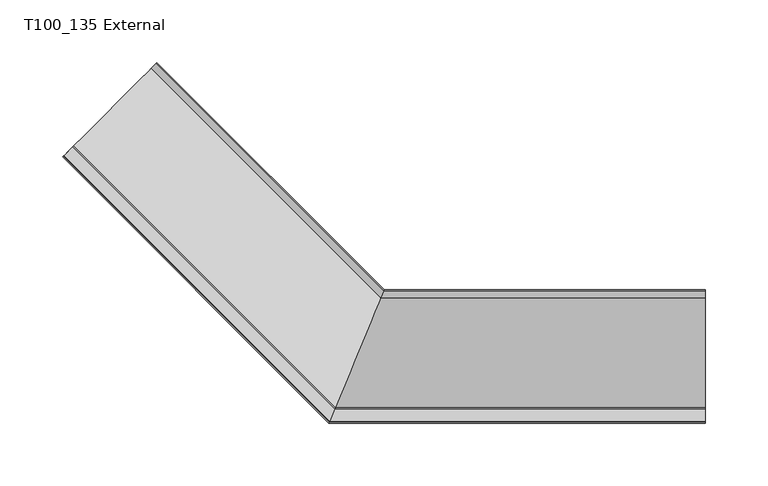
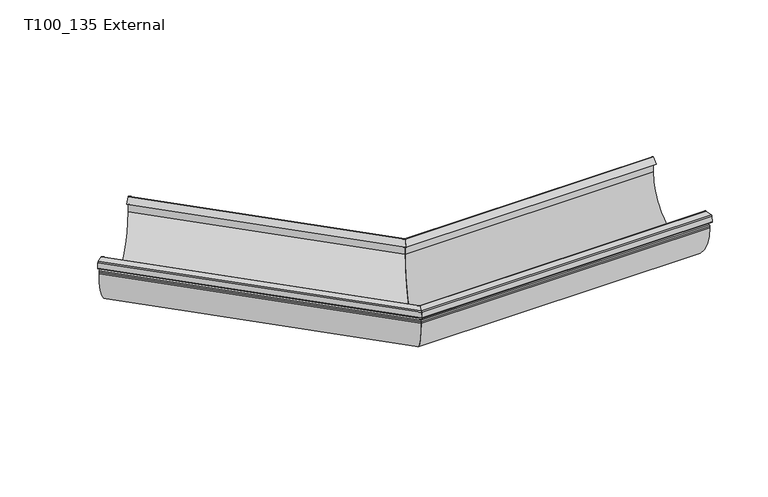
"""IFC4 building model written with IfcOpenShell, lengths in millimetres: proxy geometry, GROVIK_Gutter_Corner : T100_135 External."""

from ifc_helpers import new_model, si_unit, frame, origin, place, context, project, spatial, polyline, circle_curve, ellipse_curve, source, transform, mapped, element, save
from ifc_brep_helpers import plane_surface, cylinder_surface, revolved_surface, advanced_brep


def t100_135_external_cd28b84c(model_context):
    return source(origin(), model_context, "Body", "AdvancedBrep", [
        advanced_brep(
        [(-248.681742, 113.3718071, -12.9222473), (-248.0761002, 113.9774488, -3.1323306), (-255.1186235, 106.9349255, -1.3761787), (-255.4849795, 106.5685695, -7.2981526), (-250.5645771, 111.4889719, -6.0711814), (-250.4540681, 111.5994809, -6.9575084), (-255.2837185, 106.7698305, -8.1618494), (-256.1109223, 105.9426267, -7.0898859), (-255.7598391, 106.2937099, -1.4147892), (-254.9937947, 107.0597543, -0.5057502), (-248.0301523, 114.0233967, -2.242232), (-247.4485241, 114.605025, -3.3141955), (-248.0425963, 114.0109527, -12.9170968), (-248.6853839, 113.3681651, -13.8261357), (-252.3738487, 109.6797003, -14.2825008), (-252.3738487, 109.6797003, -16.3578028), (-181.6631706, 180.3903784, -16.3578028), (-181.6631706, 180.3903784, -1.3578028), (-185.021557, 177.031992, -5.3430859), (-185.4306245, 176.6229245, -4.6536459), (-181.6075876, 180.4459614, -0.1169778), (-181.0267745, 181.0267745, -0.5), (-181.0267745, 181.0267745, -16.3578028), (-253.0102448, 109.0433042, -16.3578028), (-253.0102448, 109.0433042, -14.3741339), (-252.3647665, 109.6887826, -13.3779392), (-41.7888282, -100.8871557, -13.3779392), (-39.6313624, -95.6785725, -12.9222473), (-42.1669406, -101.8, -14.3741339), (-42.1669406, -101.8, -16.3578028), (0.0, 0.0, -16.3578028), (0.0, 0.0, -0.5), (-0.3402325, -0.8213938, -0.1169778), (-2.5797156, -6.2279844, -4.6536459), (-2.3400894, -5.6494755, -5.3430859), (-0.3727922, -0.9, -1.3578028), (-0.3727922, -0.9, -16.3578028), (-41.7941484, -100.9, -16.3578028), (-41.7941484, -100.9, -14.2825008), (-39.6334958, -95.683723, -13.8261357), (-39.2569595, -94.7746841, -12.9170968), (-38.9089601, -93.9345391, -3.3141955), (-39.24967, -94.7570856, -2.242232), (-43.3288773, -104.6051631, -0.5057502), (-43.7776157, -105.6885136, -1.4147892), (-43.9832755, -106.1850202, -7.0898859), (-43.4987107, -105.0151773, -8.1618494), (-40.669567, -98.1850202, -6.9575084), (-40.7343017, -98.3413035, -6.0711814), (-43.6166066, -105.2998033, -7.2981526), (-43.4020003, -104.7816977, -1.3761787), (-39.2765857, -94.8220658, -3.1323306)],
        [
            (0, 1),
            (1, 2),
            (2, 3),
            (3, 4),
            (4, 5),
            (5, 6),
            (6, 7, circle_curve(frame((-255.4065063, 106.6470427, -7.1770416), z_axis=(-0.707106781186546, 0.7071067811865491, 0.0), x_axis=(0.7071067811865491, 0.707106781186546, 0.0)), 1.0)),
            (7, 8),
            (8, 9, circle_curve(frame((-255.0554231, 106.9981259, -1.5019449), z_axis=(-0.707106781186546, 0.7071067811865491, 0.0), x_axis=(0.7071067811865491, 0.707106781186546, 0.0)), 1.0)),
            (9, 10),
            (10, 11, circle_curve(frame((-248.1529401, 113.9006089, -3.2270397), z_axis=(-0.707106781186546, 0.7071067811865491, 0.0), x_axis=(0.7071067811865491, 0.707106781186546, 0.0)), 1.0)),
            (11, 12),
            (12, 13, circle_curve(frame((-248.6853839, 113.3681651, -12.9170968), z_axis=(-0.707106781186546, 0.7071067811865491, 0.0), x_axis=(0.7071067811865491, 0.707106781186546, 0.0)), 0.909039)),
            (13, 14),
            (14, 15),
            (15, 16, circle_curve(frame((-217.0185097, 145.0350394, -16.3578028), z_axis=(0.707106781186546, -0.7071067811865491, 0.0), x_axis=(0.7071067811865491, 0.707106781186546, 0.0)), 50.0)),
            (16, 17),
            (17, 18),
            (18, 19),
            (19, 20),
            (20, 21, circle_curve(frame((-181.3803279, 180.6732211, -0.5), z_axis=(-0.707106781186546, 0.7071067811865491, 0.0), x_axis=(0.7071067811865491, 0.707106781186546, 0.0)), 0.5)),
            (21, 22),
            (22, 23, circle_curve(frame((-217.0185097, 145.0350394, -16.3578028), z_axis=(-0.707106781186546, 0.7071067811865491, 0.0), x_axis=(0.7071067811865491, 0.707106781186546, 0.0)), 50.9)),
            (23, 24),
            (24, 25, circle_curve(frame((-252.3031381, 109.750411, -14.3741339), z_axis=(-0.707106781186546, 0.7071067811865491, 0.0), x_axis=(0.7071067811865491, 0.707106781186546, 0.0)), 1.0)),
            (25, 0),
            (25, 26),
            (26, 27),
            (27, 0),
            (24, 28),
            (28, 26, ellipse_curve(frame((-41.7527271, -100.8, -14.3741339), z_axis=(-0.9238795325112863, 0.38268343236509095, 0.0), x_axis=(0.382683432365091, 0.9238795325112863, 0.0)), 1.0823922, 1.0)),
            (23, 29),
            (29, 28),
            (22, 30),
            (30, 29, ellipse_curve(frame((-21.0834703, -50.9, -16.3578028), z_axis=(-0.9238795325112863, 0.38268343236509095, 0.0), x_axis=(0.382683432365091, 0.9238795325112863, 0.0)), 55.093763, 50.9)),
            (21, 31),
            (31, 30),
            (20, 32),
            (32, 31, ellipse_curve(frame((-0.2071068, -0.5, -0.5), z_axis=(-0.9238795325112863, 0.38268343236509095, 0.0), x_axis=(0.382683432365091, 0.9238795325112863, 0.0)), 0.5411961, 0.5)),
            (19, 33),
            (33, 32),
            (18, 34),
            (34, 33),
            (17, 35),
            (35, 34),
            (16, 36),
            (36, 35),
            (15, 37),
            (37, 36, ellipse_curve(frame((-21.0834703, -50.9, -16.3578028), z_axis=(0.9238795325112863, -0.38268343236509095, 0.0), x_axis=(-0.382683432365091, -0.9238795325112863, 0.0)), 54.11961, 50.0)),
            (14, 38),
            (38, 37),
            (13, 39),
            (39, 38),
            (12, 40),
            (40, 39, ellipse_curve(frame((-39.6334958, -95.683723, -12.9170968), z_axis=(-0.9238795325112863, 0.38268343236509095, 0.0), x_axis=(0.382683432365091, 0.9238795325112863, 0.0)), 0.9839367, 0.909039)),
            (11, 41),
            (41, 40),
            (10, 42),
            (42, 41, ellipse_curve(frame((-39.3215974, -94.9307338, -3.2270397), z_axis=(-0.9238795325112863, 0.38268343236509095, 0.0), x_axis=(0.382683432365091, 0.9238795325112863, 0.0)), 1.0823922, 1.0)),
            (9, 43),
            (43, 42),
            (8, 44),
            (44, 43, ellipse_curve(frame((-43.3649783, -104.6923189, -1.5019449), z_axis=(-0.9238795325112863, 0.38268343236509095, 0.0), x_axis=(0.382683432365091, 0.9238795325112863, 0.0)), 1.0823922, 1.0)),
            (7, 45),
            (45, 44),
            (6, 46),
            (46, 45, ellipse_curve(frame((-43.5706381, -105.1888255, -7.1770416), z_axis=(-0.9238795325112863, 0.38268343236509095, 0.0), x_axis=(0.382683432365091, 0.9238795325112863, 0.0)), 1.0823922, 1.0)),
            (5, 47),
            (47, 46),
            (4, 48),
            (48, 47),
            (3, 49),
            (49, 48),
            (2, 50),
            (50, 49),
            (1, 51),
            (51, 50),
            (27, 51),
        ],
        [
            plane_surface(frame((-181.0267745, 181.0267745, 0.0), z_axis=(-0.707106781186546, 0.7071067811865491, 0.0), x_axis=(0.0, 0.0, 1.0))),
            plane_surface(frame((-248.681742, 113.3718071, -12.9222473), z_axis=(-0.06162841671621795, -0.061628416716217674, 0.996194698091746), x_axis=(0.707106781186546, -0.7071067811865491, 0.0))),
            cylinder_surface(frame((-252.3031381, 109.750411, -14.3741339), z_axis=(-0.707106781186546, 0.7071067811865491, 0.0), x_axis=(0.7071067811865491, 0.707106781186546, 0.0)), 1.0),
            plane_surface(frame((-253.0102448, 109.0433042, -14.3741339), z_axis=(-0.7071067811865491, -0.707106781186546, 0.0), x_axis=(0.707106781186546, -0.7071067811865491, 0.0))),
            cylinder_surface(frame((-217.0185097, 145.0350394, -16.3578028), z_axis=(-0.707106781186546, 0.7071067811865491, 0.0), x_axis=(0.7071067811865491, 0.707106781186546, 0.0)), 50.9),
            plane_surface(frame((-181.0267745, 181.0267745, -16.3578028), z_axis=(0.7071067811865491, 0.707106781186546, 0.0), x_axis=(0.707106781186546, -0.7071067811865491, 0.0))),
            cylinder_surface(frame((-181.3803279, 180.6732211, -0.5), z_axis=(-0.707106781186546, 0.7071067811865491, 0.0), x_axis=(0.7071067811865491, 0.707106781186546, 0.0)), 0.5),
            plane_surface(frame((-181.6075876, 180.4459614, -0.1169778), z_axis=(-0.45451947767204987, -0.45451947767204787, 0.766044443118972), x_axis=(0.707106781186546, -0.7071067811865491, 0.0))),
            plane_surface(frame((-185.4306245, 176.6229245, -4.6536459), z_axis=(-0.5416752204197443, -0.5416752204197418, -0.6427876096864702), x_axis=(0.707106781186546, -0.7071067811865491, 0.0))),
            plane_surface(frame((-185.021557, 177.031992, -5.3430859), z_axis=(0.4545194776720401, 0.4545194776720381, -0.7660444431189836), x_axis=(0.707106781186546, -0.7071067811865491, 0.0))),
            plane_surface(frame((-181.6631706, 180.3903784, -1.3578028), z_axis=(-0.7071067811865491, -0.707106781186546, 0.0), x_axis=(0.707106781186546, -0.7071067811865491, 0.0))),
            revolved_surface(polyline([(28.91652970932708, -30.189321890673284, -16.3578028), (-181.66317064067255, 180.39037845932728, -16.3578028)]), (-217.0185097, 145.0350394, -16.3578028), (0.707106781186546, -0.7071067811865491, 0.0)),
            plane_surface(frame((-252.3738487, 109.6797003, -16.3578028), z_axis=(0.7071067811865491, 0.707106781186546, 0.0), x_axis=(0.707106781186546, -0.7071067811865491, 0.0))),
            plane_surface(frame((-252.3738487, 109.6797003, -14.2825008), z_axis=(0.06162841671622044, 0.06162841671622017, -0.9961946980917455), x_axis=(0.707106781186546, -0.7071067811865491, 0.0))),
            cylinder_surface(frame((-248.6853839, 113.3681651, -12.9170968), z_axis=(-0.707106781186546, 0.7071067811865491, 0.0), x_axis=(0.7071067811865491, 0.707106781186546, 0.0)), 0.909039),
            plane_surface(frame((-248.0425963, 114.0109527, -12.9170968), z_axis=(0.7044160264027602, 0.7044160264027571, -0.08715574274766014), x_axis=(0.707106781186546, -0.7071067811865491, 0.0))),
            cylinder_surface(frame((-248.1529401, 113.9006089, -3.2270397), z_axis=(-0.707106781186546, 0.7071067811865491, 0.0), x_axis=(0.7071067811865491, 0.707106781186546, 0.0)), 1.0),
            plane_surface(frame((-248.0301523, 114.0233967, -2.242232), z_axis=(0.1227878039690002, 0.12278780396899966, 0.9848077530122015), x_axis=(0.707106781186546, -0.7071067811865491, 0.0))),
            cylinder_surface(frame((-255.0554231, 106.9981259, -1.5019449), z_axis=(-0.707106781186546, 0.7071067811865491, 0.0), x_axis=(0.7071067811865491, 0.707106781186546, 0.0)), 1.0),
            plane_surface(frame((-255.7598391, 106.2937099, -1.4147892), z_axis=(-0.704416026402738, -0.7044160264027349, 0.0871557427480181), x_axis=(0.707106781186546, -0.7071067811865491, 0.0))),
            cylinder_surface(frame((-255.4065063, 106.6470427, -7.1770416), z_axis=(-0.707106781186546, 0.7071067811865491, 0.0), x_axis=(0.7071067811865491, 0.707106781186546, 0.0)), 1.0),
            plane_surface(frame((-255.2837185, 106.7698305, -8.1618494), z_axis=(0.12278780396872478, 0.12278780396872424, -0.9848077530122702), x_axis=(0.707106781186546, -0.7071067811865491, 0.0))),
            plane_surface(frame((-250.4540681, 111.5994809, -6.9575084), z_axis=(0.6963642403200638, 0.6963642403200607, 0.17364817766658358), x_axis=(0.707106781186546, -0.7071067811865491, 0.0))),
            plane_surface(frame((-250.5645771, 111.4889719, -6.0711814), z_axis=(-0.12278780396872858, -0.12278780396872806, 0.9848077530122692), x_axis=(0.707106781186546, -0.7071067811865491, 0.0))),
            plane_surface(frame((-255.4849795, 106.5685695, -7.2981526), z_axis=(0.7044160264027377, 0.7044160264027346, -0.08715574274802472), x_axis=(0.707106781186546, -0.7071067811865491, 0.0))),
            plane_surface(frame((-255.1186235, 106.9349255, -1.3761787), z_axis=(-0.12278780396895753, -0.12278780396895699, -0.984807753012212), x_axis=(0.707106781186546, -0.7071067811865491, 0.0))),
            plane_surface(frame((-248.0761002, 113.9774488, -3.1323306), z_axis=(-0.7044160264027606, -0.7044160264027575, 0.08715574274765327), x_axis=(0.707106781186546, -0.7071067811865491, 0.0))),
            plane_surface(frame((-82.8427125, -200.0, 250.0), z_axis=(0.9238795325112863, -0.38268343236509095, 0.0), x_axis=(0.0, 0.0, -1.0))),
        ],
        [
            (0, [[1, 2, 3, 4, 5, 6, 7, 8, 9, 10, 11, 12, 13, 14, 15, 16, 17, 18, 19, 20, 21, 22, 23, 24, 25, 26]]),
            (1, [[27, 28, 29, -26]]),
            (2, [[30, 31, -27, -25]]),
            (3, [[32, 33, -30, -24]]),
            (4, [[34, 35, -32, -23]]),
            (5, [[36, 37, -34, -22]]),
            (6, [[38, 39, -36, -21]]),
            (7, [[40, 41, -38, -20]]),
            (8, [[42, 43, -40, -19]]),
            (9, [[44, 45, -42, -18]]),
            (10, [[46, 47, -44, -17]]),
            (11, [[48, 49, -46, -16]]),
            (12, [[50, 51, -48, -15]]),
            (13, [[52, 53, -50, -14]]),
            (14, [[54, 55, -52, -13]]),
            (15, [[56, 57, -54, -12]]),
            (16, [[58, 59, -56, -11]]),
            (17, [[60, 61, -58, -10]]),
            (18, [[62, 63, -60, -9]]),
            (19, [[64, 65, -62, -8]]),
            (20, [[66, 67, -64, -7]]),
            (21, [[68, 69, -66, -6]]),
            (22, [[70, 71, -68, -5]]),
            (23, [[72, 73, -70, -4]]),
            (24, [[74, 75, -72, -3]]),
            (25, [[76, 77, -74, -2]]),
            (26, [[-29, 78, -76, -1]]),
            (27, [[-31, -33, -35, -37, -39, -41, -43, -45, -47, -49, -51, -53, -55, -57, -59, -61, -63, -65, -67, -69, -71, -73, -75, -77, -78, -28]]),
        ],
    ),
        advanced_brep(
        [(256.0105197, -95.6785725, -12.9222473), (256.0105197, -100.8871557, -13.3779392), (256.0105197, -101.8, -14.3741339), (256.0105197, -101.8, -16.3578028), (256.0105197, 0.0, -16.3578028), (256.0105197, 0.0, -0.5), (256.0105197, -0.8213938, -0.1169778), (256.0105197, -6.2279844, -4.6536459), (256.0105197, -5.6494755, -5.3430859), (256.0105197, -0.9, -1.3578028), (256.0105197, -0.9, -16.3578028), (256.0105197, -100.9, -16.3578028), (256.0105197, -100.9, -14.2825008), (256.0105197, -95.683723, -13.8261357), (256.0105197, -94.7746841, -12.9170968), (256.0105197, -93.9345391, -3.3141955), (256.0105197, -94.7570856, -2.242232), (256.0105197, -104.6051631, -0.5057502), (256.0105197, -105.6885136, -1.4147892), (256.0105197, -106.1850202, -7.0898859), (256.0105197, -105.0151773, -8.1618494), (256.0105197, -98.1850202, -6.9575084), (256.0105197, -98.3413035, -6.0711814), (256.0105197, -105.2998033, -7.2981526), (256.0105197, -104.7816977, -1.3761787), (256.0105197, -94.8220658, -3.1323306), (-39.6313624, -95.6785725, -12.9222473), (-41.7888282, -100.8871557, -13.3779392), (-42.1669406, -101.8, -14.3741339), (-42.1669406, -101.8, -16.3578028), (0.0, 0.0, -16.3578028), (0.0, 0.0, -0.5), (-0.3402325, -0.8213938, -0.1169778), (-2.5797156, -6.2279844, -4.6536459), (-2.3400894, -5.6494755, -5.3430859), (-0.3727922, -0.9, -1.3578028), (-0.3727922, -0.9, -16.3578028), (-41.7941484, -100.9, -16.3578028), (-41.7941484, -100.9, -14.2825008), (-39.6334958, -95.683723, -13.8261357), (-39.2569595, -94.7746841, -12.9170968), (-38.9089601, -93.9345391, -3.3141955), (-39.24967, -94.7570856, -2.242232), (-43.3288773, -104.6051631, -0.5057502), (-43.7776157, -105.6885136, -1.4147892), (-43.9832755, -106.1850202, -7.0898859), (-43.4987107, -105.0151773, -8.1618494), (-40.669567, -98.1850202, -6.9575084), (-40.7343017, -98.3413035, -6.0711814), (-43.6166066, -105.2998033, -7.2981526), (-43.4020003, -104.7816977, -1.3761787), (-39.2765857, -94.8220658, -3.1323306)],
        [
            (0, 1),
            (1, 2, circle_curve(frame((256.0105197, -100.8, -14.3741339), z_axis=(1.0, 0.0, 0.0), x_axis=(0.0, 1.0, 0.0)), 1.0)),
            (2, 3),
            (3, 4, circle_curve(frame((256.0105197, -50.9, -16.3578028), z_axis=(1.0, 0.0, 0.0), x_axis=(0.0, 1.0, 0.0)), 50.9)),
            (4, 5),
            (5, 6, circle_curve(frame((256.0105197, -0.5, -0.5), z_axis=(1.0, 0.0, 0.0), x_axis=(0.0, 1.0, 0.0)), 0.5)),
            (6, 7),
            (7, 8),
            (8, 9),
            (9, 10),
            (10, 11, circle_curve(frame((256.0105197, -50.9, -16.3578028), z_axis=(-1.0, 0.0, 0.0), x_axis=(0.0, 1.0, 0.0)), 50.0)),
            (11, 12),
            (12, 13),
            (13, 14, circle_curve(frame((256.0105197, -95.683723, -12.9170968), z_axis=(1.0, 0.0, 0.0), x_axis=(0.0, 1.0, 0.0)), 0.909039)),
            (14, 15),
            (15, 16, circle_curve(frame((256.0105197, -94.9307338, -3.2270397), z_axis=(1.0, 0.0, 0.0), x_axis=(0.0, 1.0, 0.0)), 1.0)),
            (16, 17),
            (17, 18, circle_curve(frame((256.0105197, -104.6923189, -1.5019449), z_axis=(1.0, 0.0, 0.0), x_axis=(0.0, 1.0, 0.0)), 1.0)),
            (18, 19),
            (19, 20, circle_curve(frame((256.0105197, -105.1888255, -7.1770416), z_axis=(1.0, 0.0, 0.0), x_axis=(0.0, 1.0, 0.0)), 1.0)),
            (20, 21),
            (21, 22),
            (22, 23),
            (23, 24),
            (24, 25),
            (25, 0),
            (0, 26),
            (26, 27),
            (27, 1),
            (27, 28, ellipse_curve(frame((-41.7527271, -100.8, -14.3741339), z_axis=(0.9238795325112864, -0.38268343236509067, 0.0), x_axis=(0.3826834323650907, 0.9238795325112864, 0.0)), 1.0823922, 1.0)),
            (28, 2),
            (28, 29),
            (29, 3),
            (29, 30, ellipse_curve(frame((-21.0834703, -50.9, -16.3578028), z_axis=(0.9238795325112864, -0.38268343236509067, 0.0), x_axis=(0.3826834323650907, 0.9238795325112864, 0.0)), 55.093763, 50.9)),
            (30, 4),
            (30, 31),
            (31, 5),
            (31, 32, ellipse_curve(frame((-0.2071068, -0.5, -0.5), z_axis=(0.9238795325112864, -0.38268343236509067, 0.0), x_axis=(0.3826834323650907, 0.9238795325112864, 0.0)), 0.5411961, 0.5)),
            (32, 6),
            (32, 33),
            (33, 7),
            (33, 34),
            (34, 8),
            (34, 35),
            (35, 9),
            (35, 36),
            (36, 10),
            (36, 37, ellipse_curve(frame((-21.0834703, -50.9, -16.3578028), z_axis=(-0.9238795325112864, 0.38268343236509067, 0.0), x_axis=(-0.3826834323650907, -0.9238795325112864, 0.0)), 54.11961, 50.0)),
            (37, 11),
            (37, 38),
            (38, 12),
            (38, 39),
            (39, 13),
            (39, 40, ellipse_curve(frame((-39.6334958, -95.683723, -12.9170968), z_axis=(0.9238795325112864, -0.38268343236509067, 0.0), x_axis=(0.3826834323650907, 0.9238795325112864, 0.0)), 0.9839367, 0.909039)),
            (40, 14),
            (40, 41),
            (41, 15),
            (41, 42, ellipse_curve(frame((-39.3215974, -94.9307338, -3.2270397), z_axis=(0.9238795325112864, -0.38268343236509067, 0.0), x_axis=(0.3826834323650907, 0.9238795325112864, 0.0)), 1.0823922, 1.0)),
            (42, 16),
            (42, 43),
            (43, 17),
            (43, 44, ellipse_curve(frame((-43.3649783, -104.6923189, -1.5019449), z_axis=(0.9238795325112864, -0.38268343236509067, 0.0), x_axis=(0.3826834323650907, 0.9238795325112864, 0.0)), 1.0823922, 1.0)),
            (44, 18),
            (44, 45),
            (45, 19),
            (45, 46, ellipse_curve(frame((-43.5706381, -105.1888255, -7.1770416), z_axis=(0.9238795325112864, -0.38268343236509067, 0.0), x_axis=(0.3826834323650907, 0.9238795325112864, 0.0)), 1.0823922, 1.0)),
            (46, 20),
            (46, 47),
            (47, 21),
            (47, 48),
            (48, 22),
            (48, 49),
            (49, 23),
            (49, 50),
            (50, 24),
            (50, 51),
            (51, 25),
            (51, 26),
        ],
        [
            plane_surface(frame((256.0105197, 0.0, 0.0), z_axis=(1.0, 0.0, 0.0), x_axis=(0.0, 0.0, 1.0))),
            plane_surface(frame((256.0105197, -95.6785725, -12.9222473), z_axis=(0.0, -0.087155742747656, 0.9961946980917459), x_axis=(-1.0, 0.0, 0.0))),
            cylinder_surface(frame((256.0105197, -100.8, -14.3741339), z_axis=(1.0, 0.0, 0.0), x_axis=(0.0, 1.0, 0.0)), 1.0),
            plane_surface(frame((256.0105197, -101.8, -14.3741339), z_axis=(0.0, -1.0, 0.0), x_axis=(-1.0, 0.0, 0.0))),
            cylinder_surface(frame((256.0105197, -50.9, -16.3578028), z_axis=(1.0, 0.0, 0.0), x_axis=(0.0, 1.0, 0.0)), 50.9),
            plane_surface(frame((256.0105197, 0.0, -16.3578028), z_axis=(0.0, 1.0, 0.0), x_axis=(-1.0, 0.0, 0.0))),
            cylinder_surface(frame((256.0105197, -0.5, -0.5), z_axis=(1.0, 0.0, 0.0), x_axis=(0.0, 1.0, 0.0)), 0.5),
            plane_surface(frame((256.0105197, -0.8213938, -0.1169778), z_axis=(0.0, -0.6427876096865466, 0.7660444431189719), x_axis=(-1.0, 0.0, 0.0))),
            plane_surface(frame((256.0105197, -6.2279844, -4.6536459), z_axis=(0.0, -0.7660444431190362, -0.6427876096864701), x_axis=(-1.0, 0.0, 0.0))),
            plane_surface(frame((256.0105197, -5.6494755, -5.3430859), z_axis=(0.0, 0.6427876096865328, -0.7660444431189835), x_axis=(-1.0, 0.0, 0.0))),
            plane_surface(frame((256.0105197, -0.9, -1.3578028), z_axis=(0.0, -1.0, 0.0), x_axis=(-1.0, 0.0, 0.0))),
            revolved_surface(polyline([(-41.7941484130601, -0.8999999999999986, -16.3578028), (256.0105197, -0.8999999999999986, -16.3578028)]), (256.0105197, -50.9, -16.3578028), (-1.0, 0.0, 0.0)),
            plane_surface(frame((256.0105197, -100.9, -16.3578028), z_axis=(0.0, 1.0, 0.0), x_axis=(-1.0, 0.0, 0.0))),
            plane_surface(frame((256.0105197, -100.9, -14.2825008), z_axis=(0.0, 0.08715574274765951, -0.9961946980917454), x_axis=(-1.0, 0.0, 0.0))),
            cylinder_surface(frame((256.0105197, -95.683723, -12.9170968), z_axis=(1.0, 0.0, 0.0), x_axis=(0.0, 1.0, 0.0)), 0.909039),
            plane_surface(frame((256.0105197, -94.7746841, -12.9170968), z_axis=(0.0, 0.9961946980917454, -0.08715574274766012), x_axis=(-1.0, 0.0, 0.0))),
            cylinder_surface(frame((256.0105197, -94.9307338, -3.2270397), z_axis=(1.0, 0.0, 0.0), x_axis=(0.0, 1.0, 0.0)), 1.0),
            plane_surface(frame((256.0105197, -94.7570856, -2.242232), z_axis=(0.0, 0.17364817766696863, 0.9848077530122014), x_axis=(-1.0, 0.0, 0.0))),
            cylinder_surface(frame((256.0105197, -104.6923189, -1.5019449), z_axis=(1.0, 0.0, 0.0), x_axis=(0.0, 1.0, 0.0)), 1.0),
            plane_surface(frame((256.0105197, -105.6885136, -1.4147892), z_axis=(0.0, -0.9961946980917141, 0.08715574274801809), x_axis=(-1.0, 0.0, 0.0))),
            cylinder_surface(frame((256.0105197, -105.1888255, -7.1770416), z_axis=(1.0, 0.0, 0.0), x_axis=(0.0, 1.0, 0.0)), 1.0),
            plane_surface(frame((256.0105197, -105.0151773, -8.1618494), z_axis=(0.0, 0.17364817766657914, -0.9848077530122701), x_axis=(-1.0, 0.0, 0.0))),
            plane_surface(frame((256.0105197, -98.1850202, -6.9575084), z_axis=(0.0, 0.9848077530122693, 0.17364817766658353), x_axis=(-1.0, 0.0, 0.0))),
            plane_surface(frame((256.0105197, -98.3413035, -6.0711814), z_axis=(0.0, -0.17364817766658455, 0.9848077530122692), x_axis=(-1.0, 0.0, 0.0))),
            plane_surface(frame((256.0105197, -105.2998033, -7.2981526), z_axis=(0.0, 0.9961946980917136, -0.0871557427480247), x_axis=(-1.0, 0.0, 0.0))),
            plane_surface(frame((256.0105197, -104.7816977, -1.3761787), z_axis=(0.0, -0.17364817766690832, -0.984807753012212), x_axis=(-1.0, 0.0, 0.0))),
            plane_surface(frame((256.0105197, -94.8220658, -3.1323306), z_axis=(0.0, -0.996194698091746, 0.08715574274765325), x_axis=(-1.0, 0.0, 0.0))),
            plane_surface(frame((-82.8427125, -200.0, 250.0), z_axis=(-0.9238795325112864, 0.38268343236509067, 0.0), x_axis=(0.0, 0.0, -1.0))),
        ],
        [
            (0, [[1, 2, 3, 4, 5, 6, 7, 8, 9, 10, 11, 12, 13, 14, 15, 16, 17, 18, 19, 20, 21, 22, 23, 24, 25, 26]]),
            (1, [[-1, 27, 28, 29]]),
            (2, [[-2, -29, 30, 31]]),
            (3, [[-3, -31, 32, 33]]),
            (4, [[-4, -33, 34, 35]]),
            (5, [[-5, -35, 36, 37]]),
            (6, [[-6, -37, 38, 39]]),
            (7, [[-7, -39, 40, 41]]),
            (8, [[-8, -41, 42, 43]]),
            (9, [[-9, -43, 44, 45]]),
            (10, [[-10, -45, 46, 47]]),
            (11, [[-11, -47, 48, 49]]),
            (12, [[-12, -49, 50, 51]]),
            (13, [[-13, -51, 52, 53]]),
            (14, [[-14, -53, 54, 55]]),
            (15, [[-15, -55, 56, 57]]),
            (16, [[-16, -57, 58, 59]]),
            (17, [[-17, -59, 60, 61]]),
            (18, [[-18, -61, 62, 63]]),
            (19, [[-19, -63, 64, 65]]),
            (20, [[-20, -65, 66, 67]]),
            (21, [[-21, -67, 68, 69]]),
            (22, [[-22, -69, 70, 71]]),
            (23, [[-23, -71, 72, 73]]),
            (24, [[-24, -73, 74, 75]]),
            (25, [[-25, -75, 76, 77]]),
            (26, [[-26, -77, 78, -27]]),
            (27, [[-28, -78, -76, -74, -72, -70, -68, -66, -64, -62, -60, -58, -56, -54, -52, -50, -48, -46, -44, -42, -40, -38, -36, -34, -32, -30]]),
        ],
    ),
    ])


if __name__ == "__main__":
    model = new_model("IFC4")
    model_context = context("Model", 3, world=origin())
    ifc_project = project(units=[si_unit("LENGTHUNIT", "METRE", prefix="MILLI")], contexts=[model_context])
    site = spatial("IfcSite", under=ifc_project)
    building = spatial("IfcBuilding", under=site)
    placement = place(None, origin())
    t100_135_external_shape = t100_135_external_cd28b84c(model_context)
    element("IfcBuildingElementProxy", 1, Name="GROVIK_Gutter_Corner : T100_135 External", ObjectType="GROVIK_Gutter_Corner : T100_135 External", at=placement, inside=building, context=model_context, shape_type="MappedRepresentation", body=[
        mapped(t100_135_external_shape, transform((0.0, 0.0, 0.0), x_axis=(1.0, 0.0, 0.0), y_axis=(0.0, 1.0, 0.0), z_axis=(0.0, 0.0, 1.0))),
    ])
    save(model, "model.ifc")
